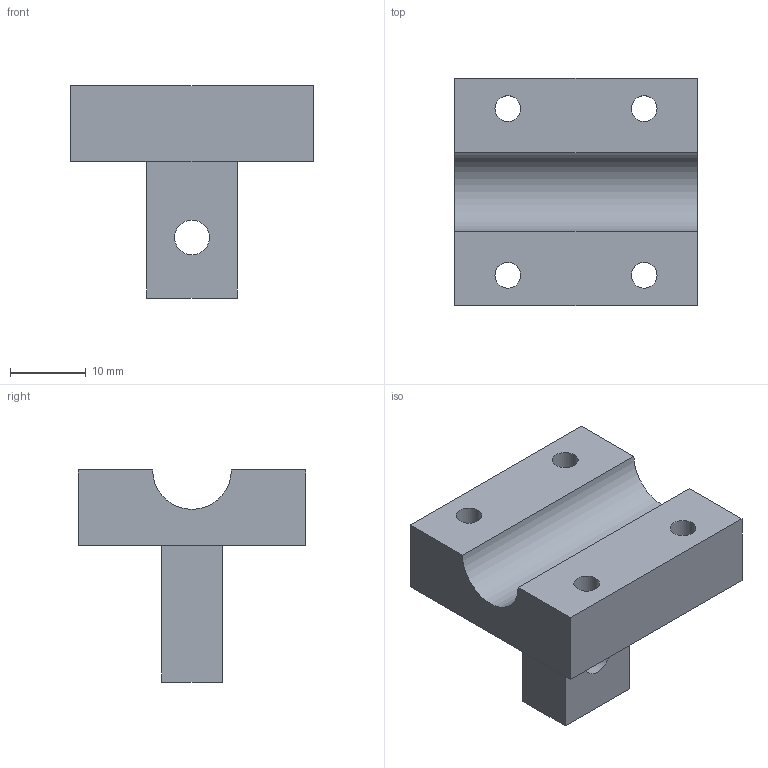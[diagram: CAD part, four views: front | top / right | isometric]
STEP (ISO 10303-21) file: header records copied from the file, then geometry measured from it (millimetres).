
FILE_DESCRIPTION(('Open CASCADE Model'),'2;1');
FILE_NAME('Open CASCADE Shape Model','2026-10-08T14:17:54',('Author'),( 'Open CASCADE'),'Open CASCADE STEP processor 7.9','Open CASCADE 7.9' ,'Unknown');
FILE_SCHEMA(('AUTOMOTIVE_DESIGN { 1 0 10303 214 1 1 1 1 }'));
Length unit declared in the file: millimetre
Products named in the file (1): Open CASCADE STEP translator 7.9 9
Bounding box: 32 x 30 x 28 mm (x, y, z)
Volume: 9472.7 mm3; surface area: 4422 mm2
Topology: 1 solids, 1 shells, 18 faces, 45 edges, 30 vertices
Faces by surface type: plane 12, cylinder 6
Full cylindrical faces by diameter (mm): 3.4 x4, 4.6 x1
Entity records: 1170 total; most frequent: CARTESIAN_POINT 260, DIRECTION 159, LINE 95, VECTOR 95, ORIENTED_EDGE 90, PCURVE 90, DEFINITIONAL_REPRESENTATION 90, EDGE_CURVE 45
